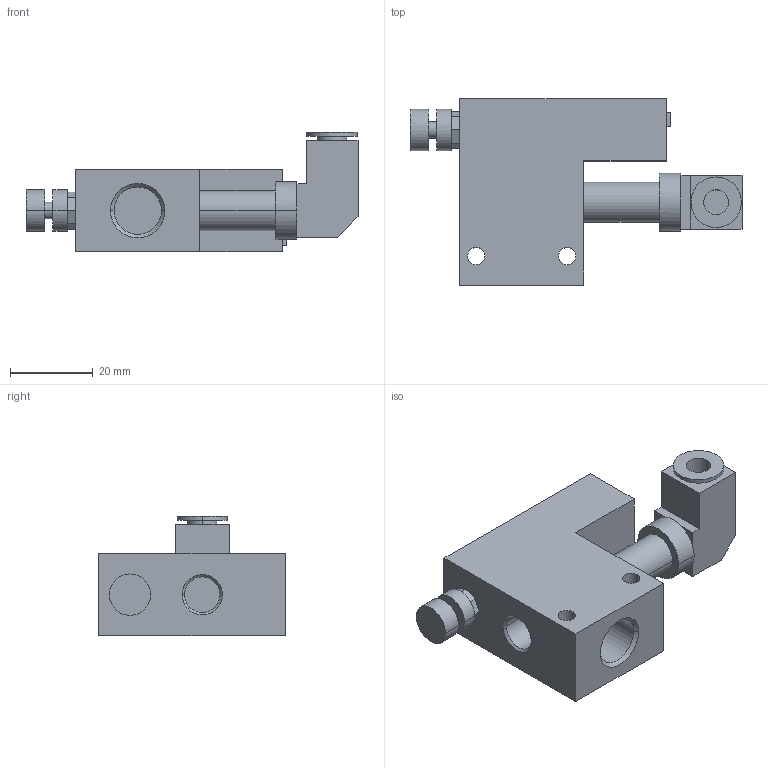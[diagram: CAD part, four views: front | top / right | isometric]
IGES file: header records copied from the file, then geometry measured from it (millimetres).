
Start section:  PTC IGES file: D:\Tpo v2\SharedFS\Outgoing\miniEjecteur2ejMv80120cp.igs
Global section: file name: D:\Tpo v2\SharedFS\Outgoing\miniEjecteur2ejMv80120cp.igs; native system:  by Parametric Technology Corporation; preprocessor: 2004280; organization: Unknown; date: 080311.092158; units: millimetre
Bounding box: 80.25 x 45 x 29 mm (x, y, z)
Volume: 37289.4 mm3; surface area: 11669 mm2
Topology: 1 solids, 1 shells, 90 faces, 201 edges, 130 vertices
Faces by surface type: bspline 52, revolution 38
